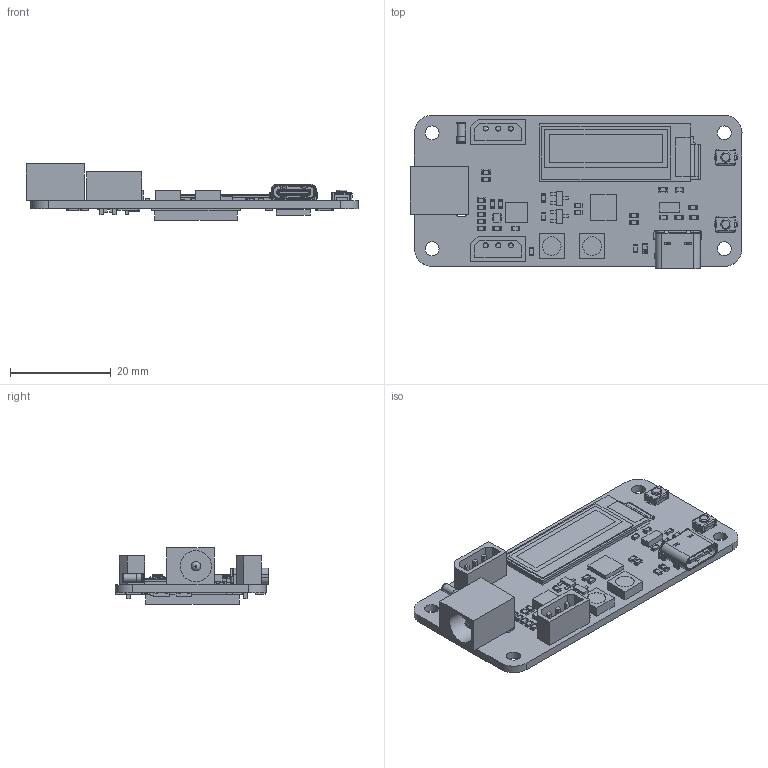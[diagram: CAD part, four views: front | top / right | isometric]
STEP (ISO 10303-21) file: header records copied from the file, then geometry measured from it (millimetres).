
FILE_DESCRIPTION(/* description */ (''),/* implementation_level */ '2;1');
FILE_NAME(/* name */ 'Servo Driver with ESP32.step',/* time_stamp */ '2025-10-30T11:44:10+08:00',/* author */ (''),/* organization */ (''),/* preprocessor_version */ 'ST-DEVELOPER v20.1',/* originating_system */ 'Autodesk Translation Framework v14.17.0.0',/* authorisation */ '');
FILE_SCHEMA (('AUTOMOTIVE_DESIGN { 1 0 10303 214 3 1 1 }'));
Products named in the file (351): Servo Driver with ESP32; Board; C23; 490328720; 490328720_1; 731907408; C22; 490325008; 490325008_1; 490325136; U5; 731907024; Extruded (4); 490332176; 490332176_1; 490332176_2; 490332176_3; 490332176_4; 490332176_5; Extruded (5); R25; 490324624; 490324624_1; 490324752; R24; 490324624_2; 490324624_3; 490324752_1; R23; 490324624_4; 490324624_5; 490324752_2; R22; 490324624_6; 490324624_7; 490324752_3; R20; 490325008_2; 490325008_3; 490325136_1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
Assembly tree (528 placements, depth 4):
  Servo Driver with ESP32
    Board
    C23
      490328720
        Extruded
      490328720_1
        Extruded
      731907408
        Extruded (1)
    C22
      490325008
        Extruded (2)
      490325008_1
        Extruded (2)
      490325136
        Extruded (3)
    U5
      731907024
        Extruded (4)
      490332176
        Extruded (5)
      490332176_1
        Extruded (5)
      490332176_2
        Extruded (5)
      490332176_3
        Extruded (5)
      490332176_4
        Extruded (5)
      490332176_5
        Extruded (5)
    R25
      490324624
        Extruded (6)
      490324624_1
        Extruded (6)
      490324752
        Extruded (7)
    R24
      490324624_2
        Extruded (6)
      490324624_3
        Extruded (6)
      490324752_1
        Extruded (7)
    R23
      490324624_4
        Extruded (6)
      490324624_5
        Extruded (6)
      490324752_2
        Extruded (7)
    R22
      490324624_6
        Extruded (6)
      490324624_7
        Extruded (6)
      490324752_3
        Extruded (7)
    R20
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Bounding box: 65.89 x 30.51 x 11.2 mm (x, y, z)
Volume: 5690.6 mm3; surface area: 11141.8 mm2
Topology: 253 solids, 265 shells, 3839 faces, 9713 edges, 6365 vertices
Faces by surface type: plane 3117, cylinder 658, cone 30, sphere 18, bspline 14, torus 2
Full cylindrical faces by diameter (mm): 0.5 x2, 0.6 x4, 0.762 x2, 1 x11, 1.6 x1, 1.7 x3, 1.87 x1, 2 x2, 2.75 x4, 3.7 x2, 6.2 x1
Entity records: 93657 total; most frequent: CARTESIAN_POINT 16675, DIRECTION 15515, ORIENTED_EDGE 14508, EDGE_CURVE 7254, LINE 5789, VECTOR 5789, AXIS2_PLACEMENT_3D 4863, VERTEX_POINT 4755
